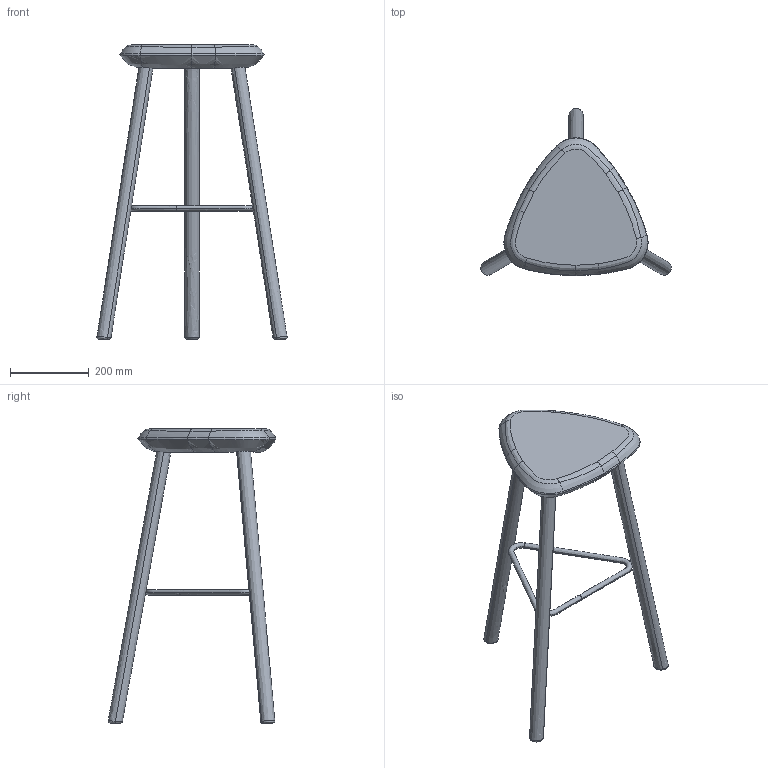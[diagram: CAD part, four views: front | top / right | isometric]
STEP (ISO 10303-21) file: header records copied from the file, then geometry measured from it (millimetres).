
FILE_DESCRIPTION(/* description */ (''),/* implementation_level */ '2;1');
FILE_NAME(/* name */ 'Pick base legno h75',/* time_stamp */ '2016-11-10T12:13:08+01:00',/* author */ (''),/* organization */ (''),/* preprocessor_version */ 'ST-DEVELOPER v10',/* originating_system */ '',/* authorisation */ '');
FILE_SCHEMA (('CONFIG_CONTROL_DESIGN'));
Length unit declared in the file: millimetre
Products named in the file (1): 1
Bounding box: 484.4 x 426.7 x 749 mm (x, y, z)
Volume: 6824214.2 mm3; surface area: 619741.3 mm2
Topology: 6 solids, 6 shells, 81 faces, 170 edges, 99 vertices
Faces by surface type: bspline 65, plane 16
Entity records: 25329 total; most frequent: CARTESIAN_POINT 24281, ORIENTED_EDGE 340, EDGE_CURVE 170, VERTEX_POINT 99, ADVANCED_FACE 81, FACE_OUTER_BOUND 81, EDGE_LOOP 81, B_SPLINE_CURVE_WITH_KNOTS 44
